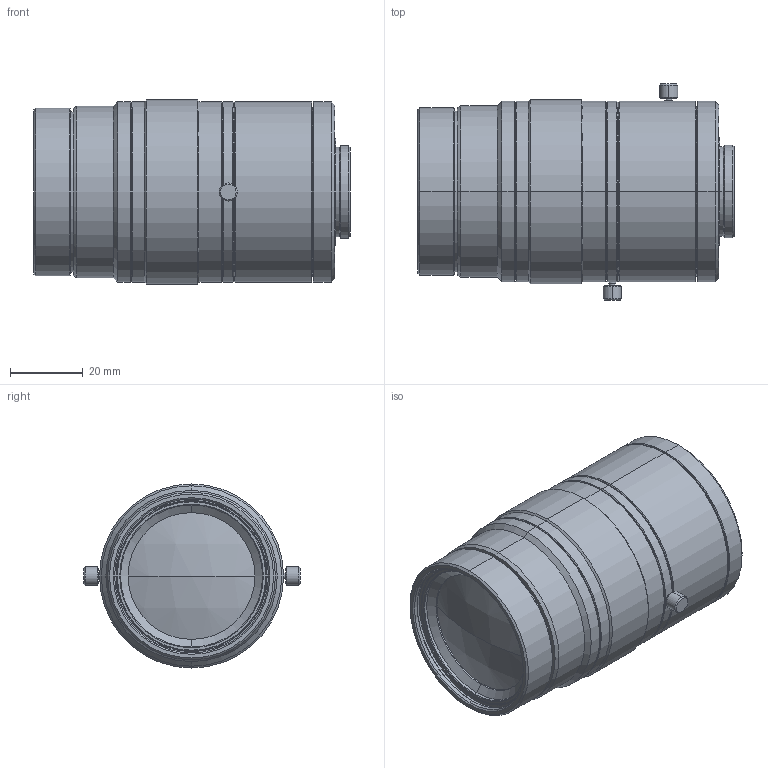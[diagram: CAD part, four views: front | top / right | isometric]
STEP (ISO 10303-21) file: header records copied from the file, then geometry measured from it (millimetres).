
FILE_DESCRIPTION (( 'STEP AP203' ), '1' );
FILE_NAME ('VS-LLD25.STEP', '2017-05-29T00:05:52', ( 'miura_vst' ), ( '' ), 'SwSTEP 2.0', 'SolidWorks 2017', '' );
FILE_SCHEMA (( 'CONFIG_CONTROL_DESIGN' ));
Length unit declared in the file: millimetre
Products named in the file (1): VS-LLD25
Bounding box: 86.78 x 59.35 x 50.5 mm (x, y, z)
Volume: 144281.7 mm3; surface area: 22682.9 mm2
Topology: 1 solids, 1 shells, 174 faces, 350 edges, 204 vertices
Faces by surface type: cone 88, cylinder 56, plane 26, sphere 4
Entity records: 4645 total; most frequent: DIRECTION 898, CARTESIAN_POINT 793, ORIENTED_EDGE 700, AXIS2_PLACEMENT_3D 377, EDGE_CURVE 350, VERTEX_POINT 204, CIRCLE 202, EDGE_LOOP 200
